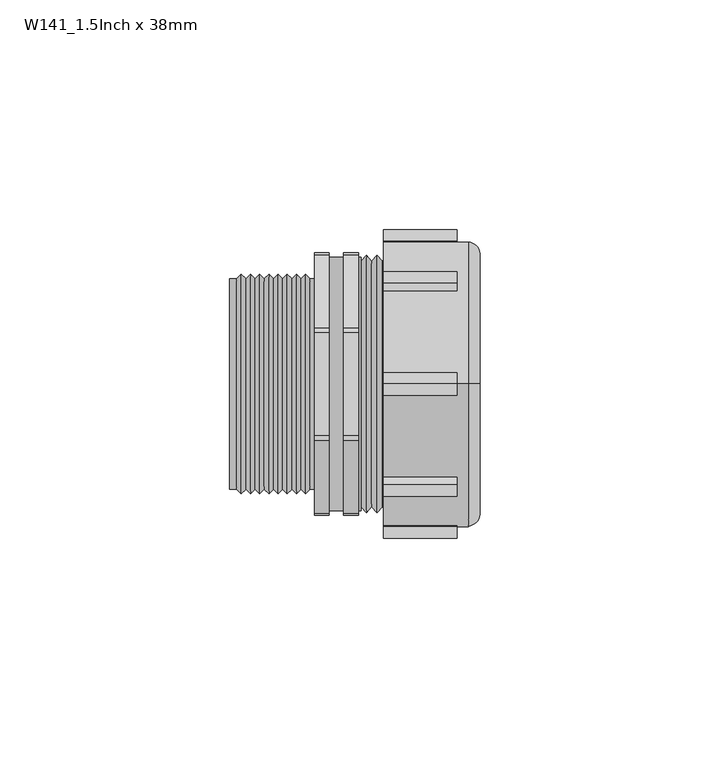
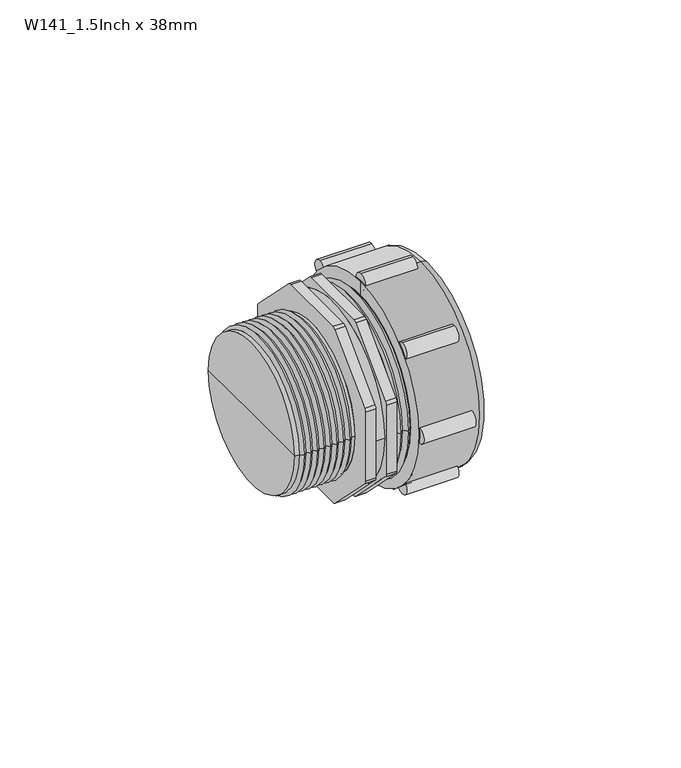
"""IFC4 building model written with IfcOpenShell, lengths in millimetres: pipe fitting geometry, Durapipe_PipeFitting_VulcatheneMechanical_MItoPipeCoupler_W14 : W141_1.5Inch x 38mm."""

from ifc_helpers import new_model, si_unit, point, frame, frame_2d, origin, place, context, project, spatial, polyline, circle_curve, ellipse_curve, trimmed, segment, composite_curve, outline, extrude, source, transform, mapped, element, save
from ifc_brep_helpers import plane_surface, cylinder_surface, revolved_surface, advanced_brep


def w141_1_5inch_x_38mm_2e8cb1b8(model_context):
    return source(origin(), model_context, "Body", "SolidModel", [
        advanced_brep(
        [(23.0, -18.5969083, 18.5969083), (23.0, 18.5969083, -18.5969083), (23.0, 17.1119841, -17.1119841), (23.0, -17.1119841, 17.1119841), (18.0, -18.3140656, 18.3140656), (18.0, 18.3140656, -18.3140656), (16.5, -18.1019336, 18.1019336), (16.5, 18.1019336, -18.1019336), (18.0, 18.1019336, -18.1019336), (18.0, -18.1019336, 18.1019336), (16.5, -17.1119841, 17.1119841), (16.5, 17.1119841, -17.1119841), (18.5, -17.1119841, 17.1119841), (18.5, 17.1119841, -17.1119841), (18.5, -16.5462987, 16.5462987), (18.5, 16.5462987, -16.5462987), (20.8, -17.1119841, 17.1119841), (20.8, 17.1119841, -17.1119841), (20.8, 16.5462987, -16.5462987), (20.8, -16.5462987, 16.5462987)],
        [
            (0, 1, circle_curve(frame((23.0, 0.0, 0.0), z_axis=(1.0, 0.0, 0.0), x_axis=(0.0, 0.7071067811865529, -0.7071067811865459)), 26.3)),
            (1, 2),
            (2, 3, circle_curve(frame((23.0, 0.0, 0.0), z_axis=(-1.0, 0.0, 0.0), x_axis=(0.0, 0.7071067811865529, -0.7071067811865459)), 24.2)),
            (3, 0),
            (1, 0, circle_curve(frame((23.0, 0.0, 0.0), z_axis=(1.0, 0.0, 0.0), x_axis=(0.0, 0.7071067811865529, -0.7071067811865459)), 26.3)),
            (3, 2, circle_curve(frame((23.0, 0.0, 0.0), z_axis=(-1.0, 0.0, 0.0), x_axis=(0.0, 0.7071067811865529, -0.7071067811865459)), 24.2)),
            (4, 5, circle_curve(frame((18.0, 0.0, 0.0), z_axis=(1.0, 0.0, 0.0), x_axis=(0.0, 0.7071067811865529, -0.7071067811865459)), 25.9)),
            (5, 1),
            (0, 4),
            (5, 4, circle_curve(frame((18.0, 0.0, 0.0), z_axis=(1.0, 0.0, 0.0), x_axis=(0.0, 0.7071067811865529, -0.7071067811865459)), 25.9)),
            (6, 7, circle_curve(frame((16.5, 0.0, 0.0), z_axis=(1.0, 0.0, 0.0), x_axis=(0.0, 0.7071067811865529, -0.7071067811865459)), 25.6)),
            (7, 8),
            (8, 9, circle_curve(frame((18.0, 0.0, 0.0), z_axis=(-1.0, 0.0, 0.0), x_axis=(0.0, 0.7071067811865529, -0.7071067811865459)), 25.6)),
            (9, 6),
            (7, 6, circle_curve(frame((16.5, 0.0, 0.0), z_axis=(1.0, 0.0, 0.0), x_axis=(0.0, 0.7071067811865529, -0.7071067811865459)), 25.6)),
            (9, 8, circle_curve(frame((18.0, 0.0, 0.0), z_axis=(-1.0, 0.0, 0.0), x_axis=(0.0, 0.7071067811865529, -0.7071067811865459)), 25.6)),
            (6, 10),
            (10, 11, circle_curve(frame((16.5, 0.0, 0.0), z_axis=(1.0, 0.0, 0.0), x_axis=(0.0, 0.7071067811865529, -0.7071067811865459)), 24.2)),
            (11, 7),
            (11, 10, circle_curve(frame((16.5, 0.0, 0.0), z_axis=(1.0, 0.0, 0.0), x_axis=(0.0, 0.7071067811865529, -0.7071067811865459)), 24.2)),
            (10, 12),
            (12, 13, circle_curve(frame((18.5, 0.0, 0.0), z_axis=(1.0, 0.0, 0.0), x_axis=(0.0, 0.7071067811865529, -0.7071067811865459)), 24.2)),
            (13, 11),
            (13, 12, circle_curve(frame((18.5, 0.0, 0.0), z_axis=(1.0, 0.0, 0.0), x_axis=(0.0, 0.7071067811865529, -0.7071067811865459)), 24.2)),
            (12, 14),
            (14, 15, circle_curve(frame((18.5, 0.0, 0.0), z_axis=(1.0, 0.0, 0.0), x_axis=(0.0, 0.7071067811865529, -0.7071067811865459)), 23.4)),
            (15, 13),
            (15, 14, circle_curve(frame((18.5, 0.0, 0.0), z_axis=(1.0, 0.0, 0.0), x_axis=(0.0, 0.7071067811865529, -0.7071067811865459)), 23.4)),
            (16, 17, circle_curve(frame((20.8, 0.0, 0.0), z_axis=(1.0, 0.0, 0.0), x_axis=(0.0, 0.7071067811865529, -0.7071067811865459)), 24.2)),
            (17, 18),
            (18, 19, circle_curve(frame((20.8, 0.0, 0.0), z_axis=(-1.0, 0.0, 0.0), x_axis=(0.0, 0.7071067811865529, -0.7071067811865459)), 23.4)),
            (19, 16),
            (17, 16, circle_curve(frame((20.8, 0.0, 0.0), z_axis=(1.0, 0.0, 0.0), x_axis=(0.0, 0.7071067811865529, -0.7071067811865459)), 24.2)),
            (19, 18, circle_curve(frame((20.8, 0.0, 0.0), z_axis=(-1.0, 0.0, 0.0), x_axis=(0.0, 0.7071067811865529, -0.7071067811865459)), 23.4)),
            (2, 17),
            (16, 3),
            (14, 19),
            (18, 15),
            (4, 9),
            (8, 5),
        ],
        [
            plane_surface(frame((23.0, 0.0, 0.0), z_axis=(1.0, 0.0, 0.0), x_axis=(0.0, 0.707106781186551, -0.707106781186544))),
            revolved_surface(polyline([(23.0, 18.5969083, -18.5969083), (18.0, 18.3140656, -18.3140656)]), (28.0, 0.0, 0.0), (-1.0000000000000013, 0.0, 0.0)),
            cylinder_surface(frame((14.4293443, 0.0, 0.0), z_axis=(-1.0000000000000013, 0.0, 0.0), x_axis=(0.0, 0.7071067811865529, -0.7071067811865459)), 25.6),
            plane_surface(frame((16.5, 0.0, 0.0), z_axis=(-1.0, 0.0, 0.0), x_axis=(0.0, 0.707106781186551, -0.707106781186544))),
            revolved_surface(polyline([(16.500000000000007, 17.11198410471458, -17.11198410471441), (18.500000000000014, 17.11198410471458, -17.11198410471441)]), (13.007009, 0.0, 0.0), (-1.0000000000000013, 0.0, 0.0)),
            plane_surface(frame((18.5, 0.0, 0.0), z_axis=(-1.0, 0.0, 0.0), x_axis=(0.0, 0.707106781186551, -0.707106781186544))),
            plane_surface(frame((20.8, 0.0, 0.0), z_axis=(1.0, 0.0, 0.0), x_axis=(0.0, 0.707106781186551, -0.707106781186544))),
            revolved_surface(polyline([(20.799999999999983, 17.11198410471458, -17.11198410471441), (22.999999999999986, 17.11198410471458, -17.11198410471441)]), (28.0, 0.0, 0.0), (-1.0000000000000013, 0.0, 0.0)),
            revolved_surface(polyline([(18.499999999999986, 16.546298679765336, -16.546298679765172), (20.79999999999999, 16.546298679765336, -16.546298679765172)]), (24.5661924, 0.0, 0.0), (-1.0000000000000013, 0.0, 0.0)),
            plane_surface(frame((18.0, 0.0, 0.0), z_axis=(-1.0, 0.0, 0.0), x_axis=(0.0, 0.707106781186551, -0.707106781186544))),
        ],
        [
            (0, [[1, 2, 3, 4]]),
            (0, [[-2, 5, -4, 6]]),
            (1, [[7, 8, -1, 9]]),
            (1, [[10, -9, -5, -8]]),
            (2, [[11, 12, 13, 14]]),
            (2, [[-12, 15, -14, 16]]),
            (3, [[-11, 17, 18, 19]]),
            (3, [[-15, -19, 20, -17]]),
            (4, [[21, 22, 23, -18]]),
            (4, [[-21, -20, -23, 24]]),
            (5, [[-22, 25, 26, 27]]),
            (5, [[-24, -27, 28, -25]]),
            (6, [[29, 30, 31, 32]]),
            (6, [[33, -32, 34, -30]]),
            (7, [[-3, 35, -29, 36]]),
            (7, [[-6, -36, -33, -35]]),
            (8, [[37, -31, 38, -26]]),
            (8, [[-37, -28, -38, -34]]),
            (9, [[-7, 39, -13, 40]]),
            (9, [[-10, -40, -16, -39]]),
        ],
    ),
        advanced_brep(
        [(6.3, 0.0, 31.0), (6.3, 0.0, -31.0), (24.7, 0.0, -31.0), (24.7, 0.0, 31.0), (6.3, 0.0, 26.0), (6.3, 0.0, -26.0), (27.2, 0.0, 28.5), (27.2, 0.0, -28.5), (27.2, 0.0, -24.0), (27.2, 0.0, 24.0), (23.0, 0.0, 26.0), (23.0, 0.0, -26.0), (23.0, 0.0, 24.0), (23.0, 0.0, -24.0)],
        [
            (0, 1, circle_curve(frame((6.3, 0.0, 0.0), z_axis=(1.0, 0.0, 0.0), x_axis=(0.0, 0.0, -1.0000000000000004)), 31.0)),
            (1, 2),
            (2, 3, circle_curve(frame((24.7, 0.0, 0.0), z_axis=(-1.0, 0.0, 0.0), x_axis=(0.0, 0.0, -1.0000000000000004)), 31.0)),
            (3, 0),
            (1, 0, circle_curve(frame((6.3, 0.0, 0.0), z_axis=(1.0, 0.0, 0.0), x_axis=(0.0, 0.0, -1.0000000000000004)), 31.0)),
            (3, 2, circle_curve(frame((24.7, 0.0, 0.0), z_axis=(-1.0, 0.0, 0.0), x_axis=(0.0, 0.0, -1.0000000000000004)), 31.0)),
            (4, 5, circle_curve(frame((6.3, 0.0, 0.0), z_axis=(1.0, 0.0, 0.0), x_axis=(0.0, 0.0, -1.0000000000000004)), 26.0)),
            (5, 1),
            (0, 4),
            (5, 4, circle_curve(frame((6.3, 0.0, 0.0), z_axis=(1.0, 0.0, 0.0), x_axis=(0.0, 0.0, -1.0000000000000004)), 26.0)),
            (6, 7, circle_curve(frame((27.2, 0.0, 0.0), z_axis=(1.0, 0.0, 0.0), x_axis=(0.0, 0.0, -1.0000000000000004)), 28.5)),
            (7, 8),
            (8, 9, circle_curve(frame((27.2, 0.0, 0.0), z_axis=(-1.0, 0.0, 0.0), x_axis=(0.0, 0.0, -1.0000000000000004)), 24.0)),
            (9, 6),
            (7, 6, circle_curve(frame((27.2, 0.0, 0.0), z_axis=(1.0, 0.0, 0.0), x_axis=(0.0, 0.0, -1.0000000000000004)), 28.5)),
            (9, 8, circle_curve(frame((27.2, 0.0, 0.0), z_axis=(-1.0, 0.0, 0.0), x_axis=(0.0, 0.0, -1.0000000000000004)), 24.0)),
            (2, 7, circle_curve(frame((24.7, 0.0, -28.5), z_axis=(0.0, -1.0000000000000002, 0.0), x_axis=(1.0000000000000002, 0.0, 0.0)), 2.5)),
            (6, 3, circle_curve(frame((24.7, 0.0, 28.5), z_axis=(0.0, -1.0000000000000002, 0.0), x_axis=(1.0000000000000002, 0.0, 0.0)), 2.5)),
            (10, 11, circle_curve(frame((23.0, 0.0, 0.0), z_axis=(1.0, 0.0, 0.0), x_axis=(0.0, 0.0, -1.0000000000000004)), 26.0)),
            (11, 5),
            (4, 10),
            (11, 10, circle_curve(frame((23.0, 0.0, 0.0), z_axis=(1.0, 0.0, 0.0), x_axis=(0.0, 0.0, -1.0000000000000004)), 26.0)),
            (12, 13, circle_curve(frame((23.0, 0.0, 0.0), z_axis=(1.0, 0.0, 0.0), x_axis=(0.0, 0.0, -1.0000000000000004)), 24.0)),
            (13, 11),
            (10, 12),
            (13, 12, circle_curve(frame((23.0, 0.0, 0.0), z_axis=(1.0, 0.0, 0.0), x_axis=(0.0, 0.0, -1.0000000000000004)), 24.0)),
            (8, 13),
            (12, 9),
        ],
        [
            cylinder_surface(frame((1588.0018184, 0.0, 0.0), z_axis=(-1.0000000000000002, 0.0, 0.0), x_axis=(0.0, 0.0, -1.0000000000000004)), 31.0),
            plane_surface(frame((6.3, 0.0, 0.0), z_axis=(-1.0, 0.0, 0.0), x_axis=(0.0, 0.0, -1.0))),
            plane_surface(frame((27.2, 0.0, 0.0), z_axis=(1.0, 0.0, 0.0), x_axis=(0.0, 0.0, -1.0))),
            revolved_surface(trimmed(ellipse_curve(frame((24.7, 0.0, -28.5), z_axis=(0.0, 1.0000000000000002, 0.0), x_axis=(1.0000000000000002, 0.0, 0.0)), 2.5, 2.5), [point((27.2, 0.0, -28.5))], [point((24.7, 0.0, -31.0))], True, "CARTESIAN"), (1588.0018184, 0.0, 0.0), (-1.0000000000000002, 0.0, 0.0)),
            revolved_surface(polyline([(6.299999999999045, 0.0, -26.00000000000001), (22.99999999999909, 0.0, -26.00000000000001)]), (1588.0018184, 0.0, 0.0), (-1.0000000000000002, 0.0, 0.0)),
            plane_surface(frame((23.0, 0.0, 0.0), z_axis=(-1.0, 0.0, 0.0), x_axis=(0.0, 0.0, -1.0))),
            revolved_surface(polyline([(22.99999999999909, 0.0, -24.00000000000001), (27.199999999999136, 0.0, -24.00000000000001)]), (1588.0018184, 0.0, 0.0), (-1.0000000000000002, 0.0, 0.0)),
        ],
        [
            (0, [[1, 2, 3, 4]]),
            (0, [[5, -4, 6, -2]]),
            (1, [[7, 8, -1, 9]]),
            (1, [[10, -9, -5, -8]]),
            (2, [[11, 12, 13, 14]]),
            (2, [[15, -14, 16, -12]]),
            (3, [[-3, 17, -11, 18]]),
            (3, [[-6, -18, -15, -17]]),
            (4, [[19, 20, -7, 21]]),
            (4, [[22, -21, -10, -20]]),
            (5, [[23, 24, -19, 25]]),
            (5, [[26, -25, -22, -24]]),
            (6, [[-13, 27, -23, 28]]),
            (6, [[-16, -28, -26, -27]]),
        ],
    ),
        extrude(outline(composite_curve([segment(trimmed(circle_curve(frame_2d((31.0, 0.0)), 2.5), [point((31.0, 2.5))], [point((31.0, -2.5))], False, "CARTESIAN"), True, "CONTINUOUS"), segment(trimmed(circle_curve(frame_2d((31.0, 0.0)), 2.5), [point((31.0, -2.5))], [point((31.0, 2.5))], False, "CARTESIAN"), True, "CONTINUOUS")], self_intersect=False)), frame((6.3, 0.0, 0.0), z_axis=(1.0, 0.0, 0.0), x_axis=(0.0, 1.0, 0.0)), (0.0, 0.0, 1.0), 15.9),
        extrude(outline(composite_curve([segment(trimmed(circle_curve(frame_2d((21.9203102, -21.9203102)), 2.5), [point((21.9203102, -19.4203102))], [point((21.9203102, -24.4203102))], False, "CARTESIAN"), True, "CONTINUOUS"), segment(trimmed(circle_curve(frame_2d((21.9203102, -21.9203102)), 2.5), [point((21.9203102, -24.4203102))], [point((21.9203102, -19.4203102))], False, "CARTESIAN"), True, "CONTINUOUS")], self_intersect=False)), frame((6.3, 0.0, 0.0), z_axis=(1.0, 0.0, 0.0), x_axis=(0.0, 1.0, 0.0)), (0.0, 0.0, 1.0), 15.9),
        extrude(outline(composite_curve([segment(trimmed(circle_curve(frame_2d((0.0, -31.0)), 2.5), [point((0.0, -28.5))], [point((0.0, -33.5))], False, "CARTESIAN"), True, "CONTINUOUS"), segment(trimmed(circle_curve(frame_2d((0.0, -31.0)), 2.5), [point((0.0, -33.5))], [point((0.0, -28.5))], False, "CARTESIAN"), True, "CONTINUOUS")], self_intersect=False)), frame((6.3, 0.0, 0.0), z_axis=(1.0, 0.0, 0.0), x_axis=(0.0, 1.0, 0.0)), (0.0, 0.0, 1.0), 15.9),
        extrude(outline(composite_curve([segment(trimmed(circle_curve(frame_2d((-21.9203102, -21.9203102)), 2.5), [point((-21.9203102, -19.4203102))], [point((-21.9203102, -24.4203102))], False, "CARTESIAN"), True, "CONTINUOUS"), segment(trimmed(circle_curve(frame_2d((-21.9203102, -21.9203102)), 2.5), [point((-21.9203102, -24.4203102))], [point((-21.9203102, -19.4203102))], False, "CARTESIAN"), True, "CONTINUOUS")], self_intersect=False)), frame((6.3, 0.0, 0.0), z_axis=(1.0, 0.0, 0.0), x_axis=(0.0, 1.0, 0.0)), (0.0, 0.0, 1.0), 15.9),
        extrude(outline(composite_curve([segment(trimmed(circle_curve(frame_2d((-31.0, 0.0)), 2.5), [point((-31.0, 2.5))], [point((-31.0, -2.5))], False, "CARTESIAN"), True, "CONTINUOUS"), segment(trimmed(circle_curve(frame_2d((-31.0, 0.0)), 2.5), [point((-31.0, -2.5))], [point((-31.0, 2.5))], False, "CARTESIAN"), True, "CONTINUOUS")], self_intersect=False)), frame((6.3, 0.0, 0.0), z_axis=(1.0, 0.0, 0.0), x_axis=(0.0, 1.0, 0.0)), (0.0, 0.0, 1.0), 15.9),
        extrude(outline(composite_curve([segment(trimmed(circle_curve(frame_2d((-21.9203102, 21.9203102)), 2.5), [point((-21.9203102, 24.4203102))], [point((-21.9203102, 19.4203102))], False, "CARTESIAN"), True, "CONTINUOUS"), segment(trimmed(circle_curve(frame_2d((-21.9203102, 21.9203102)), 2.5), [point((-21.9203102, 19.4203102))], [point((-21.9203102, 24.4203102))], False, "CARTESIAN"), True, "CONTINUOUS")], self_intersect=False)), frame((6.3, 0.0, 0.0), z_axis=(1.0, 0.0, 0.0), x_axis=(0.0, 1.0, 0.0)), (0.0, 0.0, 1.0), 15.9),
        extrude(outline(composite_curve([segment(trimmed(circle_curve(frame_2d((0.0, 31.0)), 2.5), [point((0.0, 33.5))], [point((0.0, 28.5))], False, "CARTESIAN"), True, "CONTINUOUS"), segment(trimmed(circle_curve(frame_2d((0.0, 31.0)), 2.5), [point((0.0, 28.5))], [point((0.0, 33.5))], False, "CARTESIAN"), True, "CONTINUOUS")], self_intersect=False)), frame((6.3, 0.0, 0.0), z_axis=(1.0, 0.0, 0.0), x_axis=(0.0, 1.0, 0.0)), (0.0, 0.0, 1.0), 15.9),
        extrude(outline(composite_curve([segment(trimmed(circle_curve(frame_2d((21.9203102, 21.9203102)), 2.5), [point((21.9203102, 24.4203102))], [point((21.9203102, 19.4203102))], False, "CARTESIAN"), True, "CONTINUOUS"), segment(trimmed(circle_curve(frame_2d((21.9203102, 21.9203102)), 2.5), [point((21.9203102, 19.4203102))], [point((21.9203102, 24.4203102))], False, "CARTESIAN"), True, "CONTINUOUS")], self_intersect=False)), frame((6.3, 0.0, 0.0), z_axis=(1.0, 0.0, 0.0), x_axis=(0.0, 1.0, 0.0)), (0.0, 0.0, 1.0), 15.9),
        advanced_brep(
        [(-5.6, 11.1837662, 28.5), (-5.6, -11.1837662, 28.5), (-5.6, -12.2444264, 28.0606602), (-5.6, -28.0606602, 12.2444264), (-5.6, -28.5, 11.1837662), (-5.6, -28.5, -11.1837662), (-5.6, -28.0606602, -12.2444264), (-5.6, -12.2444264, -28.0606602), (-5.6, -11.1837662, -28.5), (-5.6, 11.1837662, -28.5), (-5.6, 12.2444264, -28.0606602), (-5.6, 28.0606602, -12.2444264), (-5.6, 28.5, -11.1837662), (-5.6, 28.5, 11.1837662), (-5.6, 28.0606602, 12.2444264), (-5.6, 12.2444264, 28.0606602), (-5.6, 27.6, 0.0), (-5.6, -27.6, 0.0), (-8.8, 11.1837662, 28.5), (-8.8, 12.2444264, 28.0606602), (-8.8, 28.0606602, 12.2444264), (-8.8, 28.5, 11.1837662), (-8.8, 28.5, -11.1837662), (-8.8, 28.0606602, -12.2444264), (-8.8, 12.2444264, -28.0606602), (-8.8, 11.1837662, -28.5), (-8.8, -11.1837662, -28.5), (-8.8, -12.2444264, -28.0606602), (-8.8, -28.0606602, -12.2444264), (-8.8, -28.5, -11.1837662), (-8.8, -28.5, 11.1837662), (-8.8, -28.0606602, 12.2444264), (-8.8, -12.2444264, 28.0606602), (-8.8, -11.1837662, 28.5), (-8.8, -22.875, 0.0), (-8.8, 22.875, 0.0), (0.8, 11.1837662, 28.5), (0.8, -11.1837662, 28.5), (0.8, -12.2444264, 28.0606602), (0.8, -28.0606602, 12.2444264), (0.8, -28.5, 11.1837662), (0.8, -28.5, -11.1837662), (0.8, -28.0606602, -12.2444264), (0.8, -12.2444264, -28.0606602), (0.8, -11.1837662, -28.5), (0.8, 11.1837662, -28.5), (0.8, 12.2444264, -28.0606602), (0.8, 28.0606602, -12.2444264), (0.8, 28.5, -11.1837662), (0.8, 28.5, 11.1837662), (0.8, 28.0606602, 12.2444264), (0.8, 12.2444264, 28.0606602), (0.8, 27.6, 0.0), (0.8, -27.6, 0.0), (-2.4, 11.1837662, 28.5), (-2.4, 12.2444264, 28.0606602), (-2.4, 28.0606602, 12.2444264), (-2.4, 28.5, 11.1837662), (-2.4, 28.5, -11.1837662), (-2.4, 28.0606602, -12.2444264), (-2.4, 12.2444264, -28.0606602), (-2.4, 11.1837662, -28.5), (-2.4, -11.1837662, -28.5), (-2.4, -12.2444264, -28.0606602), (-2.4, -28.0606602, -12.2444264), (-2.4, -28.5, -11.1837662), (-2.4, -28.5, 11.1837662), (-2.4, -28.0606602, 12.2444264), (-2.4, -12.2444264, 28.0606602), (-2.4, -11.1837662, 28.5), (-2.4, -27.6, 0.0), (-2.4, 27.6, 0.0), (1.35, -27.6, 0.0), (1.35, 27.6, 0.0), (1.35, 26.7, 0.0), (1.35, -26.7, 0.0), (-9.7007206, -22.875, 0.0), (-9.7007206, 22.875, 0.0), (-10.7006755, -23.8499658, 0.0), (-10.7006755, 23.8499658, 0.0), (-11.7006305, -22.875, 0.0), (-11.7006305, 22.875, 0.0), (-12.7005855, -23.8499658, 0.0), (-12.7005855, 23.8499658, 0.0), (-13.7005404, -22.875, 0.0), (-13.7005404, 22.875, 0.0), (-14.7004954, -23.8499658, 0.0), (-14.7004954, 23.8499658, 0.0), (-15.7004504, -22.875, 0.0), (-15.7004504, 22.875, 0.0), (-16.7004053, -23.8499658, 0.0), (-16.7004053, 23.8499658, 0.0), (-17.7003603, -22.875, 0.0), (-17.7003603, 22.875, 0.0), (-18.7003152, -23.8499658, 0.0), (-18.7003152, 23.8499658, 0.0), (-19.7002702, -22.875, 0.0), (-19.7002702, 22.875, 0.0), (-20.7002252, -23.8499658, 0.0), (-20.7002252, 23.8499658, 0.0), (-21.7001801, -22.875, 0.0), (-21.7001801, 22.875, 0.0), (-22.7001351, -23.8499658, 0.0), (-22.7001351, 23.8499658, 0.0), (-23.7000901, -22.875, 0.0), (-23.7000901, 22.875, 0.0), (-24.700045, -23.8499658, 0.0), (-24.700045, 23.8499658, 0.0), (-25.7, -22.875, 0.0), (-25.7, 22.875, 0.0), (-27.2, -22.875, 0.0), (-27.2, 22.875, 0.0), (-27.2, 0.0, 0.0), (6.5073707, -27.3037677, 0.0), (6.5073707, 27.3037677, 0.0), (6.5073707, 0.0, 0.0), (5.9825235, -26.7, 0.0), (5.9825235, 26.7, 0.0), (4.8243926, -28.0322772, 0.0), (4.8243926, 28.0322772, 0.0), (3.6662617, -26.7, 0.0), (3.6662617, 26.7, 0.0), (2.5081309, -28.0322772, 0.0), (2.5081309, 28.0322772, 0.0)],
        [
            (0, 1),
            (1, 2, circle_curve(frame((-5.6, -11.1837662, 27.0), z_axis=(1.0, 0.0, 0.0), x_axis=(0.0, 1.0, 0.0)), 1.5)),
            (2, 3),
            (3, 4, circle_curve(frame((-5.6, -27.0, 11.1837662), z_axis=(1.0, 0.0, 0.0), x_axis=(0.0, 1.0, 0.0)), 1.5)),
            (4, 5),
            (5, 6, circle_curve(frame((-5.6, -27.0, -11.1837662), z_axis=(1.0, 0.0, 0.0), x_axis=(0.0, 1.0, 0.0)), 1.5)),
            (6, 7),
            (7, 8, circle_curve(frame((-5.6, -11.1837662, -27.0), z_axis=(1.0, 0.0, 0.0), x_axis=(0.0, 1.0, 0.0)), 1.5)),
            (8, 9),
            (9, 10, circle_curve(frame((-5.6, 11.1837662, -27.0), z_axis=(1.0, 0.0, 0.0), x_axis=(0.0, 1.0, 0.0)), 1.5)),
            (10, 11),
            (11, 12, circle_curve(frame((-5.6, 27.0, -11.1837662), z_axis=(1.0, 0.0, 0.0), x_axis=(0.0, 1.0, 0.0)), 1.5)),
            (12, 13),
            (13, 14, circle_curve(frame((-5.6, 27.0, 11.1837662), z_axis=(1.0, 0.0, 0.0), x_axis=(0.0, 1.0, 0.0)), 1.5)),
            (14, 15),
            (15, 0, circle_curve(frame((-5.6, 11.1837662, 27.0), z_axis=(1.0, 0.0, 0.0), x_axis=(0.0, 1.0, 0.0)), 1.5)),
            (16, 17, circle_curve(frame((-5.6, 0.0, 0.0), z_axis=(-1.0, 0.0, 0.0), x_axis=(0.0, 1.0, 0.0)), 27.6)),
            (17, 16, circle_curve(frame((-5.6, 0.0, 0.0), z_axis=(-1.0, 0.0, 0.0), x_axis=(0.0, 1.0, 0.0)), 27.6)),
            (18, 19, circle_curve(frame((-8.8, 11.1837662, 27.0), z_axis=(-1.0, 0.0, 0.0), x_axis=(0.0, 1.0, 0.0)), 1.5)),
            (19, 20),
            (20, 21, circle_curve(frame((-8.8, 27.0, 11.1837662), z_axis=(-1.0, 0.0, 0.0), x_axis=(0.0, 1.0, 0.0)), 1.5)),
            (21, 22),
            (22, 23, circle_curve(frame((-8.8, 27.0, -11.1837662), z_axis=(-1.0, 0.0, 0.0), x_axis=(0.0, 1.0, 0.0)), 1.5)),
            (23, 24),
            (24, 25, circle_curve(frame((-8.8, 11.1837662, -27.0), z_axis=(-1.0, 0.0, 0.0), x_axis=(0.0, 1.0, 0.0)), 1.5)),
            (25, 26),
            (26, 27, circle_curve(frame((-8.8, -11.1837662, -27.0), z_axis=(-1.0, 0.0, 0.0), x_axis=(0.0, 1.0, 0.0)), 1.5)),
            (27, 28),
            (28, 29, circle_curve(frame((-8.8, -27.0, -11.1837662), z_axis=(-1.0, 0.0, 0.0), x_axis=(0.0, 1.0, 0.0)), 1.5)),
            (29, 30),
            (30, 31, circle_curve(frame((-8.8, -27.0, 11.1837662), z_axis=(-1.0, 0.0, 0.0), x_axis=(0.0, 1.0, 0.0)), 1.5)),
            (31, 32),
            (32, 33, circle_curve(frame((-8.8, -11.1837662, 27.0), z_axis=(-1.0, 0.0, 0.0), x_axis=(0.0, 1.0, 0.0)), 1.5)),
            (33, 18),
            (34, 35, circle_curve(frame((-8.8, 0.0, 0.0), z_axis=(1.0, 0.0, 0.0), x_axis=(0.0, 1.0, 0.0)), 22.875)),
            (35, 34, circle_curve(frame((-8.8, 0.0, 0.0), z_axis=(1.0, 0.0, 0.0), x_axis=(0.0, 1.0, 0.0)), 22.875)),
            (0, 18),
            (33, 1),
            (32, 2),
            (31, 3),
            (30, 4),
            (29, 5),
            (28, 6),
            (27, 7),
            (26, 8),
            (25, 9),
            (24, 10),
            (23, 11),
            (22, 12),
            (21, 13),
            (20, 14),
            (19, 15),
            (36, 37),
            (37, 38, circle_curve(frame((0.8, -11.1837662, 27.0), z_axis=(1.0, 0.0, 0.0), x_axis=(0.0, 1.0, 0.0)), 1.5)),
            (38, 39),
            (39, 40, circle_curve(frame((0.8, -27.0, 11.1837662), z_axis=(1.0, 0.0, 0.0), x_axis=(0.0, 1.0, 0.0)), 1.5)),
            (40, 41),
            (41, 42, circle_curve(frame((0.8, -27.0, -11.1837662), z_axis=(1.0, 0.0, 0.0), x_axis=(0.0, 1.0, 0.0)), 1.5)),
            (42, 43),
            (43, 44, circle_curve(frame((0.8, -11.1837662, -27.0), z_axis=(1.0, 0.0, 0.0), x_axis=(0.0, 1.0, 0.0)), 1.5)),
            (44, 45),
            (45, 46, circle_curve(frame((0.8, 11.1837662, -27.0), z_axis=(1.0, 0.0, 0.0), x_axis=(0.0, 1.0, 0.0)), 1.5)),
            (46, 47),
            (47, 48, circle_curve(frame((0.8, 27.0, -11.1837662), z_axis=(1.0, 0.0, 0.0), x_axis=(0.0, 1.0, 0.0)), 1.5)),
            (48, 49),
            (49, 50, circle_curve(frame((0.8, 27.0, 11.1837662), z_axis=(1.0, 0.0, 0.0), x_axis=(0.0, 1.0, 0.0)), 1.5)),
            (50, 51),
            (51, 36, circle_curve(frame((0.8, 11.1837662, 27.0), z_axis=(1.0, 0.0, 0.0), x_axis=(0.0, 1.0, 0.0)), 1.5)),
            (52, 53, circle_curve(frame((0.8, 0.0, 0.0), z_axis=(-1.0, 0.0, 0.0), x_axis=(0.0, 1.0, 0.0)), 27.6)),
            (53, 52, circle_curve(frame((0.8, 0.0, 0.0), z_axis=(-1.0, 0.0, 0.0), x_axis=(0.0, 1.0, 0.0)), 27.6)),
            (54, 55, circle_curve(frame((-2.4, 11.1837662, 27.0), z_axis=(-1.0, 0.0, 0.0), x_axis=(0.0, 1.0, 0.0)), 1.5)),
            (55, 56),
            (56, 57, circle_curve(frame((-2.4, 27.0, 11.1837662), z_axis=(-1.0, 0.0, 0.0), x_axis=(0.0, 1.0, 0.0)), 1.5)),
            (57, 58),
            (58, 59, circle_curve(frame((-2.4, 27.0, -11.1837662), z_axis=(-1.0, 0.0, 0.0), x_axis=(0.0, 1.0, 0.0)), 1.5)),
            (59, 60),
            (60, 61, circle_curve(frame((-2.4, 11.1837662, -27.0), z_axis=(-1.0, 0.0, 0.0), x_axis=(0.0, 1.0, 0.0)), 1.5)),
            (61, 62),
            (62, 63, circle_curve(frame((-2.4, -11.1837662, -27.0), z_axis=(-1.0, 0.0, 0.0), x_axis=(0.0, 1.0, 0.0)), 1.5)),
            (63, 64),
            (64, 65, circle_curve(frame((-2.4, -27.0, -11.1837662), z_axis=(-1.0, 0.0, 0.0), x_axis=(0.0, 1.0, 0.0)), 1.5)),
            (65, 66),
            (66, 67, circle_curve(frame((-2.4, -27.0, 11.1837662), z_axis=(-1.0, 0.0, 0.0), x_axis=(0.0, 1.0, 0.0)), 1.5)),
            (67, 68),
            (68, 69, circle_curve(frame((-2.4, -11.1837662, 27.0), z_axis=(-1.0, 0.0, 0.0), x_axis=(0.0, 1.0, 0.0)), 1.5)),
            (69, 54),
            (70, 71, circle_curve(frame((-2.4, 0.0, 0.0), z_axis=(1.0, 0.0, 0.0), x_axis=(0.0, 1.0, 0.0)), 27.6)),
            (71, 70, circle_curve(frame((-2.4, 0.0, 0.0), z_axis=(1.0, 0.0, 0.0), x_axis=(0.0, 1.0, 0.0)), 27.6)),
            (36, 54),
            (69, 37),
            (68, 38),
            (67, 39),
            (66, 40),
            (65, 41),
            (64, 42),
            (63, 43),
            (62, 44),
            (61, 45),
            (60, 46),
            (59, 47),
            (58, 48),
            (57, 49),
            (56, 50),
            (55, 51),
            (72, 73, circle_curve(frame((1.35, 0.0, 0.0), z_axis=(1.0, 0.0, 0.0), x_axis=(0.0, 1.0, 0.0)), 27.6)),
            (73, 74),
            (74, 75, circle_curve(frame((1.35, 0.0, 0.0), z_axis=(-1.0, 0.0, 0.0), x_axis=(0.0, 1.0, 0.0)), 26.7)),
            (75, 72),
            (73, 72, circle_curve(frame((1.35, 0.0, 0.0), z_axis=(1.0, 0.0, 0.0), x_axis=(0.0, 1.0, 0.0)), 27.6)),
            (75, 74, circle_curve(frame((1.35, 0.0, 0.0), z_axis=(-1.0, 0.0, 0.0), x_axis=(0.0, 1.0, 0.0)), 26.7)),
            (72, 53),
            (52, 73),
            (16, 71),
            (70, 17),
            (76, 77, circle_curve(frame((-9.7007206, 0.0, 0.0), z_axis=(1.0, 0.0, 0.0), x_axis=(0.0, 1.0, 0.0)), 22.875)),
            (77, 35),
            (34, 76),
            (77, 76, circle_curve(frame((-9.7007206, 0.0, 0.0), z_axis=(1.0, 0.0, 0.0), x_axis=(0.0, 1.0, 0.0)), 22.875)),
            (76, 78),
            (78, 79, circle_curve(frame((-10.7006755, 0.0, 0.0), z_axis=(1.0, 0.0, 0.0), x_axis=(0.0, 1.0, 0.0)), 23.8499658)),
            (79, 77),
            (79, 78, circle_curve(frame((-10.7006755, 0.0, 0.0), z_axis=(1.0, 0.0, 0.0), x_axis=(0.0, 1.0, 0.0)), 23.8499658)),
            (78, 80),
            (80, 81, circle_curve(frame((-11.7006305, 0.0, 0.0), z_axis=(1.0, 0.0, 0.0), x_axis=(0.0, 1.0, 0.0)), 22.875)),
            (81, 79),
            (81, 80, circle_curve(frame((-11.7006305, 0.0, 0.0), z_axis=(1.0, 0.0, 0.0), x_axis=(0.0, 1.0, 0.0)), 22.875)),
            (80, 82),
            (82, 83, circle_curve(frame((-12.7005855, 0.0, 0.0), z_axis=(1.0, 0.0, 0.0), x_axis=(0.0, 1.0, 0.0)), 23.8499658)),
            (83, 81),
            (83, 82, circle_curve(frame((-12.7005855, 0.0, 0.0), z_axis=(1.0, 0.0, 0.0), x_axis=(0.0, 1.0, 0.0)), 23.8499658)),
            (82, 84),
            (84, 85, circle_curve(frame((-13.7005404, 0.0, 0.0), z_axis=(1.0, 0.0, 0.0), x_axis=(0.0, 1.0, 0.0)), 22.875)),
            (85, 83),
            (85, 84, circle_curve(frame((-13.7005404, 0.0, 0.0), z_axis=(1.0, 0.0, 0.0), x_axis=(0.0, 1.0, 0.0)), 22.875)),
            (84, 86),
            (86, 87, circle_curve(frame((-14.7004954, 0.0, 0.0), z_axis=(1.0, 0.0, 0.0), x_axis=(0.0, 1.0, 0.0)), 23.8499658)),
            (87, 85),
            (87, 86, circle_curve(frame((-14.7004954, 0.0, 0.0), z_axis=(1.0, 0.0, 0.0), x_axis=(0.0, 1.0, 0.0)), 23.8499658)),
            (86, 88),
            (88, 89, circle_curve(frame((-15.7004504, 0.0, 0.0), z_axis=(1.0, 0.0, 0.0), x_axis=(0.0, 1.0, 0.0)), 22.875)),
            (89, 87),
            (89, 88, circle_curve(frame((-15.7004504, 0.0, 0.0), z_axis=(1.0, 0.0, 0.0), x_axis=(0.0, 1.0, 0.0)), 22.875)),
            (88, 90),
            (90, 91, circle_curve(frame((-16.7004053, 0.0, 0.0), z_axis=(1.0, 0.0, 0.0), x_axis=(0.0, 1.0, 0.0)), 23.8499658)),
            (91, 89),
            (91, 90, circle_curve(frame((-16.7004053, 0.0, 0.0), z_axis=(1.0, 0.0, 0.0), x_axis=(0.0, 1.0, 0.0)), 23.8499658)),
            (90, 92),
            (92, 93, circle_curve(frame((-17.7003603, 0.0, 0.0), z_axis=(1.0, 0.0, 0.0), x_axis=(0.0, 1.0, 0.0)), 22.875)),
            (93, 91),
            (93, 92, circle_curve(frame((-17.7003603, 0.0, 0.0), z_axis=(1.0, 0.0, 0.0), x_axis=(0.0, 1.0, 0.0)), 22.875)),
            (92, 94),
            (94, 95, circle_curve(frame((-18.7003152, 0.0, 0.0), z_axis=(1.0, 0.0, 0.0), x_axis=(0.0, 1.0, 0.0)), 23.8499658)),
            (95, 93),
            (95, 94, circle_curve(frame((-18.7003152, 0.0, 0.0), z_axis=(1.0, 0.0, 0.0), x_axis=(0.0, 1.0, 0.0)), 23.8499658)),
            (94, 96),
            (96, 97, circle_curve(frame((-19.7002702, 0.0, 0.0), z_axis=(1.0, 0.0, 0.0), x_axis=(0.0, 1.0, 0.0)), 22.875)),
            (97, 95),
            (97, 96, circle_curve(frame((-19.7002702, 0.0, 0.0), z_axis=(1.0, 0.0, 0.0), x_axis=(0.0, 1.0, 0.0)), 22.875)),
            (96, 98),
            (98, 99, circle_curve(frame((-20.7002252, 0.0, 0.0), z_axis=(1.0, 0.0, 0.0), x_axis=(0.0, 1.0, 0.0)), 23.8499658)),
            (99, 97),
            (99, 98, circle_curve(frame((-20.7002252, 0.0, 0.0), z_axis=(1.0, 0.0, 0.0), x_axis=(0.0, 1.0, 0.0)), 23.8499658)),
            (98, 100),
            (100, 101, circle_curve(frame((-21.7001801, 0.0, 0.0), z_axis=(1.0, 0.0, 0.0), x_axis=(0.0, 1.0, 0.0)), 22.875)),
            (101, 99),
            (101, 100, circle_curve(frame((-21.7001801, 0.0, 0.0), z_axis=(1.0, 0.0, 0.0), x_axis=(0.0, 1.0, 0.0)), 22.875)),
            (100, 102),
            (102, 103, circle_curve(frame((-22.7001351, 0.0, 0.0), z_axis=(1.0, 0.0, 0.0), x_axis=(0.0, 1.0, 0.0)), 23.8499658)),
            (103, 101),
            (103, 102, circle_curve(frame((-22.7001351, 0.0, 0.0), z_axis=(1.0, 0.0, 0.0), x_axis=(0.0, 1.0, 0.0)), 23.8499658)),
            (102, 104),
            (104, 105, circle_curve(frame((-23.7000901, 0.0, 0.0), z_axis=(1.0, 0.0, 0.0), x_axis=(0.0, 1.0, 0.0)), 22.875)),
            (105, 103),
            (105, 104, circle_curve(frame((-23.7000901, 0.0, 0.0), z_axis=(1.0, 0.0, 0.0), x_axis=(0.0, 1.0, 0.0)), 22.875)),
            (104, 106),
            (106, 107, circle_curve(frame((-24.700045, 0.0, 0.0), z_axis=(1.0, 0.0, 0.0), x_axis=(0.0, 1.0, 0.0)), 23.8499658)),
            (107, 105),
            (107, 106, circle_curve(frame((-24.700045, 0.0, 0.0), z_axis=(1.0, 0.0, 0.0), x_axis=(0.0, 1.0, 0.0)), 23.8499658)),
            (106, 108),
            (108, 109, circle_curve(frame((-25.7, 0.0, 0.0), z_axis=(1.0, 0.0, 0.0), x_axis=(0.0, 1.0, 0.0)), 22.875)),
            (109, 107),
            (109, 108, circle_curve(frame((-25.7, 0.0, 0.0), z_axis=(1.0, 0.0, 0.0), x_axis=(0.0, 1.0, 0.0)), 22.875)),
            (108, 110),
            (110, 111, circle_curve(frame((-27.2, 0.0, 0.0), z_axis=(1.0, 0.0, 0.0), x_axis=(0.0, 1.0, 0.0)), 22.875)),
            (111, 109),
            (111, 110, circle_curve(frame((-27.2, 0.0, 0.0), z_axis=(1.0, 0.0, 0.0), x_axis=(0.0, 1.0, 0.0)), 22.875)),
            (110, 112),
            (112, 111),
            (113, 114, circle_curve(frame((6.5073707, 0.0, 0.0), z_axis=(1.0, 0.0, 0.0), x_axis=(0.0, 1.0, 0.0)), 27.3037677)),
            (114, 115),
            (115, 113),
            (114, 113, circle_curve(frame((6.5073707, 0.0, 0.0), z_axis=(1.0, 0.0, 0.0), x_axis=(0.0, 1.0, 0.0)), 27.3037677)),
            (113, 116),
            (116, 117, circle_curve(frame((5.9825235, 0.0, 0.0), z_axis=(1.0, 0.0, 0.0), x_axis=(0.0, 1.0, 0.0)), 26.7)),
            (117, 114),
            (117, 116, circle_curve(frame((5.9825235, 0.0, 0.0), z_axis=(1.0, 0.0, 0.0), x_axis=(0.0, 1.0, 0.0)), 26.7)),
            (116, 118),
            (118, 119, circle_curve(frame((4.8243926, 0.0, 0.0), z_axis=(1.0, 0.0, 0.0), x_axis=(0.0, 1.0, 0.0)), 28.0322772)),
            (119, 117),
            (119, 118, circle_curve(frame((4.8243926, 0.0, 0.0), z_axis=(1.0, 0.0, 0.0), x_axis=(0.0, 1.0, 0.0)), 28.0322772)),
            (118, 120),
            (120, 121, circle_curve(frame((3.6662617, 0.0, 0.0), z_axis=(1.0, 0.0, 0.0), x_axis=(0.0, 1.0, 0.0)), 26.7)),
            (121, 119),
            (121, 120, circle_curve(frame((3.6662617, 0.0, 0.0), z_axis=(1.0, 0.0, 0.0), x_axis=(0.0, 1.0, 0.0)), 26.7)),
            (120, 122),
            (122, 123, circle_curve(frame((2.5081309, 0.0, 0.0), z_axis=(1.0, 0.0, 0.0), x_axis=(0.0, 1.0, 0.0)), 28.0322772)),
            (123, 121),
            (123, 122, circle_curve(frame((2.5081309, 0.0, 0.0), z_axis=(1.0, 0.0, 0.0), x_axis=(0.0, 1.0, 0.0)), 28.0322772)),
            (74, 123),
            (122, 75),
        ],
        [
            plane_surface(frame((-5.6, -11.1837662, 28.5), z_axis=(1.0, 0.0, 0.0), x_axis=(0.0, -1.0, 0.0))),
            plane_surface(frame((-8.8, -11.1837662, 28.5), z_axis=(-1.0, 0.0, 0.0), x_axis=(0.0, 1.0, 0.0))),
            plane_surface(frame((-5.6, 11.1837662, 28.5), z_axis=(0.0, 0.0, 1.0), x_axis=(-1.0, 0.0, 0.0))),
            cylinder_surface(frame((-8.8, -11.1837662, 27.0), z_axis=(1.0, 0.0, 0.0), x_axis=(0.0, 1.0, 0.0)), 1.5),
            plane_surface(frame((-5.6, -12.2444264, 28.0606602), z_axis=(0.0, -0.7071067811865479, 0.7071067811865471), x_axis=(-1.0, 0.0, 0.0))),
            cylinder_surface(frame((-8.8, -27.0, 11.1837662), z_axis=(1.0, 0.0, 0.0), x_axis=(0.0, 1.0, 0.0)), 1.5),
            plane_surface(frame((-5.6, -28.5, 11.1837662), z_axis=(0.0, -1.0, 0.0), x_axis=(-1.0, 0.0, 0.0))),
            cylinder_surface(frame((-8.8, -27.0, -11.1837662), z_axis=(1.0, 0.0, 0.0), x_axis=(0.0, 1.0, 0.0)), 1.5),
            plane_surface(frame((-5.6, -28.0606602, -12.2444264), z_axis=(0.0, -0.7071067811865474, -0.7071067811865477), x_axis=(-1.0, 0.0, 0.0))),
            cylinder_surface(frame((-8.8, -11.1837662, -27.0), z_axis=(1.0, 0.0, 0.0), x_axis=(0.0, 1.0, 0.0)), 1.5),
            plane_surface(frame((-5.6, -11.1837662, -28.5), z_axis=(0.0, 0.0, -1.0), x_axis=(-1.0, 0.0, 0.0))),
            cylinder_surface(frame((-8.8, 11.1837662, -27.0), z_axis=(1.0, 0.0, 0.0), x_axis=(0.0, 1.0, 0.0)), 1.5),
            plane_surface(frame((-5.6, 12.2444264, -28.0606602), z_axis=(0.0, 0.707106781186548, -0.7071067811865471), x_axis=(-1.0, 0.0, 0.0))),
            cylinder_surface(frame((-8.8, 27.0, -11.1837662), z_axis=(1.0, 0.0, 0.0), x_axis=(0.0, 1.0, 0.0)), 1.5),
            plane_surface(frame((-5.6, 28.5, -11.1837662), z_axis=(0.0, 1.0, 0.0), x_axis=(-1.0, 0.0, 0.0))),
            cylinder_surface(frame((-8.8, 27.0, 11.1837662), z_axis=(1.0, 0.0, 0.0), x_axis=(0.0, 1.0, 0.0)), 1.5),
            plane_surface(frame((-5.6, 28.0606602, 12.2444264), z_axis=(0.0, 0.7071067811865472, 0.707106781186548), x_axis=(-1.0, 0.0, 0.0))),
            cylinder_surface(frame((-8.8, 11.1837662, 27.0), z_axis=(1.0, 0.0, 0.0), x_axis=(0.0, 1.0, 0.0)), 1.5),
            plane_surface(frame((0.8, -11.1837662, 28.5), z_axis=(1.0, 0.0, 0.0), x_axis=(0.0, -1.0, 0.0))),
            plane_surface(frame((-2.4, -11.1837662, 28.5), z_axis=(-1.0, 0.0, 0.0), x_axis=(0.0, 1.0, 0.0))),
            plane_surface(frame((0.8, 11.1837662, 28.5), z_axis=(0.0, 0.0, 1.0), x_axis=(-1.0, 0.0, 0.0))),
            cylinder_surface(frame((-2.4, -11.1837662, 27.0), z_axis=(1.0, 0.0, 0.0), x_axis=(0.0, 1.0, 0.0)), 1.5),
            plane_surface(frame((0.8, -12.2444264, 28.0606602), z_axis=(0.0, -0.7071067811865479, 0.7071067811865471), x_axis=(-1.0, 0.0, 0.0))),
            cylinder_surface(frame((-2.4, -27.0, 11.1837662), z_axis=(1.0, 0.0, 0.0), x_axis=(0.0, 1.0, 0.0)), 1.5),
            plane_surface(frame((0.8, -28.5, 11.1837662), z_axis=(0.0, -1.0, 0.0), x_axis=(-1.0, 0.0, 0.0))),
            cylinder_surface(frame((-2.4, -27.0, -11.1837662), z_axis=(1.0, 0.0, 0.0), x_axis=(0.0, 1.0, 0.0)), 1.5),
            plane_surface(frame((0.8, -28.0606602, -12.2444264), z_axis=(0.0, -0.7071067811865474, -0.7071067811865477), x_axis=(-1.0, 0.0, 0.0))),
            cylinder_surface(frame((-2.4, -11.1837662, -27.0), z_axis=(1.0, 0.0, 0.0), x_axis=(0.0, 1.0, 0.0)), 1.5),
            plane_surface(frame((0.8, -11.1837662, -28.5), z_axis=(0.0, 0.0, -1.0), x_axis=(-1.0, 0.0, 0.0))),
            cylinder_surface(frame((-2.4, 11.1837662, -27.0), z_axis=(1.0, 0.0, 0.0), x_axis=(0.0, 1.0, 0.0)), 1.5),
            plane_surface(frame((0.8, 12.2444264, -28.0606602), z_axis=(0.0, 0.707106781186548, -0.7071067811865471), x_axis=(-1.0, 0.0, 0.0))),
            cylinder_surface(frame((-2.4, 27.0, -11.1837662), z_axis=(1.0, 0.0, 0.0), x_axis=(0.0, 1.0, 0.0)), 1.5),
            plane_surface(frame((0.8, 28.5, -11.1837662), z_axis=(0.0, 1.0, 0.0), x_axis=(-1.0, 0.0, 0.0))),
            cylinder_surface(frame((-2.4, 27.0, 11.1837662), z_axis=(1.0, 0.0, 0.0), x_axis=(0.0, 1.0, 0.0)), 1.5),
            plane_surface(frame((0.8, 28.0606602, 12.2444264), z_axis=(0.0, 0.7071067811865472, 0.707106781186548), x_axis=(-1.0, 0.0, 0.0))),
            cylinder_surface(frame((-2.4, 11.1837662, 27.0), z_axis=(1.0, 0.0, 0.0), x_axis=(0.0, 1.0, 0.0)), 1.5),
            plane_surface(frame((1.35, 0.0, 0.0), z_axis=(1.0, 0.0, 0.0), x_axis=(0.0, 1.0, 0.0))),
            cylinder_surface(frame((-31.2795442, 0.0, 0.0), z_axis=(-1.0, 0.0, 0.0), x_axis=(0.0, 1.0, 0.0)), 27.6),
            cylinder_surface(frame((-31.2795442, 0.0, 0.0), z_axis=(-1.0, 0.0, 0.0), x_axis=(0.0, 1.0, 0.0)), 22.875),
            revolved_surface(polyline([(-9.7007206, 22.875, 0.0), (-10.7006755, 23.8499658, 0.0)]), (-31.2795442, 0.0, 0.0), (-1.0, 0.0, 0.0)),
            revolved_surface(polyline([(-10.7006755, 23.8499658, 0.0), (-11.7006305, 22.875, 0.0)]), (-31.2795442, 0.0, 0.0), (-1.0, 0.0, 0.0)),
            revolved_surface(polyline([(-11.7006305, 22.875, 0.0), (-12.7005855, 23.8499658, 0.0)]), (-31.2795442, 0.0, 0.0), (-1.0, 0.0, 0.0)),
            revolved_surface(polyline([(-12.7005855, 23.8499658, 0.0), (-13.7005404, 22.875, 0.0)]), (-31.2795442, 0.0, 0.0), (-1.0, 0.0, 0.0)),
            revolved_surface(polyline([(-13.7005404, 22.875, 0.0), (-14.7004954, 23.8499658, 0.0)]), (-31.2795442, 0.0, 0.0), (-1.0, 0.0, 0.0)),
            revolved_surface(polyline([(-14.7004954, 23.8499658, 0.0), (-15.7004504, 22.875, 0.0)]), (-31.2795442, 0.0, 0.0), (-1.0, 0.0, 0.0)),
            revolved_surface(polyline([(-15.7004504, 22.875, 0.0), (-16.7004053, 23.8499658, 0.0)]), (-31.2795442, 0.0, 0.0), (-1.0, 0.0, 0.0)),
            revolved_surface(polyline([(-16.7004053, 23.8499658, 0.0), (-17.7003603, 22.875, 0.0)]), (-31.2795442, 0.0, 0.0), (-1.0, 0.0, 0.0)),
            revolved_surface(polyline([(-17.7003603, 22.875, 0.0), (-18.7003152, 23.8499658, 0.0)]), (-31.2795442, 0.0, 0.0), (-1.0, 0.0, 0.0)),
            revolved_surface(polyline([(-18.7003152, 23.8499658, 0.0), (-19.7002702, 22.875, 0.0)]), (-31.2795442, 0.0, 0.0), (-1.0, 0.0, 0.0)),
            revolved_surface(polyline([(-19.7002702, 22.875, 0.0), (-20.7002252, 23.8499658, 0.0)]), (-31.2795442, 0.0, 0.0), (-1.0, 0.0, 0.0)),
            revolved_surface(polyline([(-20.7002252, 23.8499658, 0.0), (-21.7001801, 22.875, 0.0)]), (-31.2795442, 0.0, 0.0), (-1.0, 0.0, 0.0)),
            revolved_surface(polyline([(-21.7001801, 22.875, 0.0), (-22.7001351, 23.8499658, 0.0)]), (-31.2795442, 0.0, 0.0), (-1.0, 0.0, 0.0)),
            revolved_surface(polyline([(-22.7001351, 23.8499658, 0.0), (-23.7000901, 22.875, 0.0)]), (-31.2795442, 0.0, 0.0), (-1.0, 0.0, 0.0)),
            revolved_surface(polyline([(-23.7000901, 22.875, 0.0), (-24.700045, 23.8499658, 0.0)]), (-31.2795442, 0.0, 0.0), (-1.0, 0.0, 0.0)),
            revolved_surface(polyline([(-24.700045, 23.8499658, 0.0), (-25.7, 22.875, 0.0)]), (-31.2795442, 0.0, 0.0), (-1.0, 0.0, 0.0)),
            plane_surface(frame((-27.2, 0.0, 0.0), z_axis=(-1.0, 0.0, 0.0), x_axis=(0.0, 1.0, 0.0))),
            plane_surface(frame((6.5073707, 0.0, 0.0), z_axis=(1.0, 0.0, 0.0), x_axis=(0.0, 1.0, 0.0))),
            revolved_surface(polyline([(6.5073707, 27.3037677, 0.0), (5.9825235, 26.7, 0.0)]), (-31.2795442, 0.0, 0.0), (-1.0, 0.0, 0.0)),
            revolved_surface(polyline([(5.9825235, 26.7, 0.0), (4.8243926, 28.0322772, 0.0)]), (-31.2795442, 0.0, 0.0), (-1.0, 0.0, 0.0)),
            revolved_surface(polyline([(4.8243926, 28.0322772, 0.0), (3.6662617, 26.7, 0.0)]), (-31.2795442, 0.0, 0.0), (-1.0, 0.0, 0.0)),
            revolved_surface(polyline([(3.6662617, 26.7, 0.0), (2.5081309, 28.0322772, 0.0)]), (-31.2795442, 0.0, 0.0), (-1.0, 0.0, 0.0)),
            revolved_surface(polyline([(2.5081309, 28.0322772, 0.0), (1.35, 26.7, 0.0)]), (-31.2795442, 0.0, 0.0), (-1.0, 0.0, 0.0)),
        ],
        [
            (0, [[1, 2, 3, 4, 5, 6, 7, 8, 9, 10, 11, 12, 13, 14, 15, 16], [17, 18]]),
            (1, [[19, 20, 21, 22, 23, 24, 25, 26, 27, 28, 29, 30, 31, 32, 33, 34], [35, 36]]),
            (2, [[-1, 37, -34, 38]]),
            (3, [[-2, -38, -33, 39]]),
            (4, [[-3, -39, -32, 40]]),
            (5, [[-4, -40, -31, 41]]),
            (6, [[-5, -41, -30, 42]]),
            (7, [[-6, -42, -29, 43]]),
            (8, [[-7, -43, -28, 44]]),
            (9, [[-8, -44, -27, 45]]),
            (10, [[-9, -45, -26, 46]]),
            (11, [[-10, -46, -25, 47]]),
            (12, [[-11, -47, -24, 48]]),
            (13, [[-12, -48, -23, 49]]),
            (14, [[-13, -49, -22, 50]]),
            (15, [[-14, -50, -21, 51]]),
            (16, [[-15, -51, -20, 52]]),
            (17, [[-16, -52, -19, -37]]),
            (18, [[53, 54, 55, 56, 57, 58, 59, 60, 61, 62, 63, 64, 65, 66, 67, 68], [69, 70]]),
            (19, [[71, 72, 73, 74, 75, 76, 77, 78, 79, 80, 81, 82, 83, 84, 85, 86], [87, 88]]),
            (20, [[-53, 89, -86, 90]]),
            (21, [[-54, -90, -85, 91]]),
            (22, [[-55, -91, -84, 92]]),
            (23, [[-56, -92, -83, 93]]),
            (24, [[-57, -93, -82, 94]]),
            (25, [[-58, -94, -81, 95]]),
            (26, [[-59, -95, -80, 96]]),
            (27, [[-60, -96, -79, 97]]),
            (28, [[-61, -97, -78, 98]]),
            (29, [[-62, -98, -77, 99]]),
            (30, [[-63, -99, -76, 100]]),
            (31, [[-64, -100, -75, 101]]),
            (32, [[-65, -101, -74, 102]]),
            (33, [[-66, -102, -73, 103]]),
            (34, [[-67, -103, -72, 104]]),
            (35, [[-68, -104, -71, -89]]),
            (36, [[105, 106, 107, 108]]),
            (36, [[-106, 109, -108, 110]]),
            (37, [[-105, 111, -69, 112]]),
            (37, [[113, -87, 114, -17]]),
            (37, [[-109, -112, -70, -111]]),
            (37, [[-113, -18, -114, -88]]),
            (38, [[115, 116, -35, 117]]),
            (38, [[118, -117, -36, -116]]),
            (39, [[-115, 119, 120, 121]]),
            (39, [[-118, -121, 122, -119]]),
            (40, [[-120, 123, 124, 125]]),
            (40, [[-122, -125, 126, -123]]),
            (41, [[-124, 127, 128, 129]]),
            (41, [[-126, -129, 130, -127]]),
            (42, [[-128, 131, 132, 133]]),
            (42, [[-130, -133, 134, -131]]),
            (43, [[-132, 135, 136, 137]]),
            (43, [[-134, -137, 138, -135]]),
            (44, [[-136, 139, 140, 141]]),
            (44, [[-138, -141, 142, -139]]),
            (45, [[-140, 143, 144, 145]]),
            (45, [[-142, -145, 146, -143]]),
            (46, [[-144, 147, 148, 149]]),
            (46, [[-146, -149, 150, -147]]),
            (47, [[-148, 151, 152, 153]]),
            (47, [[-150, -153, 154, -151]]),
            (48, [[-152, 155, 156, 157]]),
            (48, [[-154, -157, 158, -155]]),
            (49, [[-156, 159, 160, 161]]),
            (49, [[-158, -161, 162, -159]]),
            (50, [[-160, 163, 164, 165]]),
            (50, [[-162, -165, 166, -163]]),
            (51, [[-164, 167, 168, 169]]),
            (51, [[-166, -169, 170, -167]]),
            (52, [[-168, 171, 172, 173]]),
            (52, [[-170, -173, 174, -171]]),
            (53, [[-172, 175, 176, 177]]),
            (53, [[-174, -177, 178, -175]]),
            (54, [[-176, 179, 180, 181]]),
            (54, [[-178, -181, 182, -179]]),
            (38, [[-180, 183, 184, 185]]),
            (38, [[-182, -185, 186, -183]]),
            (55, [[-184, 187, 188]]),
            (55, [[-186, -188, -187]]),
            (56, [[189, 190, 191]]),
            (56, [[-190, 192, -191]]),
            (57, [[-189, 193, 194, 195]]),
            (57, [[-192, -195, 196, -193]]),
            (58, [[-194, 197, 198, 199]]),
            (58, [[-196, -199, 200, -197]]),
            (59, [[-198, 201, 202, 203]]),
            (59, [[-200, -203, 204, -201]]),
            (60, [[-202, 205, 206, 207]]),
            (60, [[-204, -207, 208, -205]]),
            (61, [[-107, 209, -206, 210]]),
            (61, [[-110, -210, -208, -209]]),
        ],
    ),
    ])


if __name__ == "__main__":
    model = new_model("IFC4")
    model_context = context("Model", 3, world=origin())
    ifc_project = project(units=[si_unit("LENGTHUNIT", "METRE", prefix="MILLI")], contexts=[model_context])
    site = spatial("IfcSite", under=ifc_project)
    building = spatial("IfcBuilding", under=site)
    placement = place(None, origin())
    w141_1_5inch_x_38mm_shape = w141_1_5inch_x_38mm_2e8cb1b8(model_context)
    element("IfcPipeFitting", 1, ObjectType="Durapipe_PipeFitting_VulcatheneMechanical_MItoPipeCoupler_W14 : W141_1.5Inch x 38mm", at=placement, inside=building, context=model_context, shape_type="MappedRepresentation", body=[
        mapped(w141_1_5inch_x_38mm_shape, transform((0.0, 0.0, 0.0), x_axis=(1.0, 0.0, 0.0), y_axis=(0.0, 1.0, 0.0), z_axis=(0.0, 0.0, 1.0))),
    ])
    save(model, "model.ifc")
